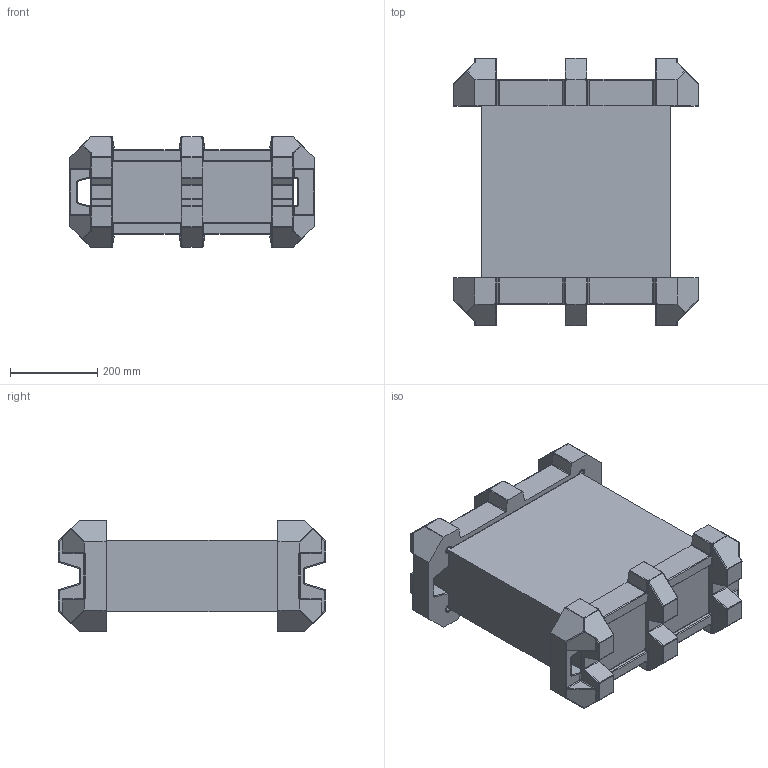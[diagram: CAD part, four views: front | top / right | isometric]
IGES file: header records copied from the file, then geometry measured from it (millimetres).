
Start section: SolidWorks IGES file using analytic representation for surfaces
Global section: file name: C:\Documents and Settings\Pc\Escritorio\Modelos 3D\Capítulo 4 (Caída)\PRÁCTICAS PROPUESTAS\P-6\Ensamblaje.IGS; native system: SolidWorks 2010; preprocessor: SolidWorks 2010; author: Pc; date: 100623.114104; units: millimetre
Bounding box: 562 x 614.91 x 254 mm (x, y, z)
Surface area: 1516631.3 mm2 (no closed solid volume)
Topology: 0 solids, 0 shells, 1180 faces, 8252 edges, 8130 vertices
Faces by surface type: revolution 672, bspline 508
